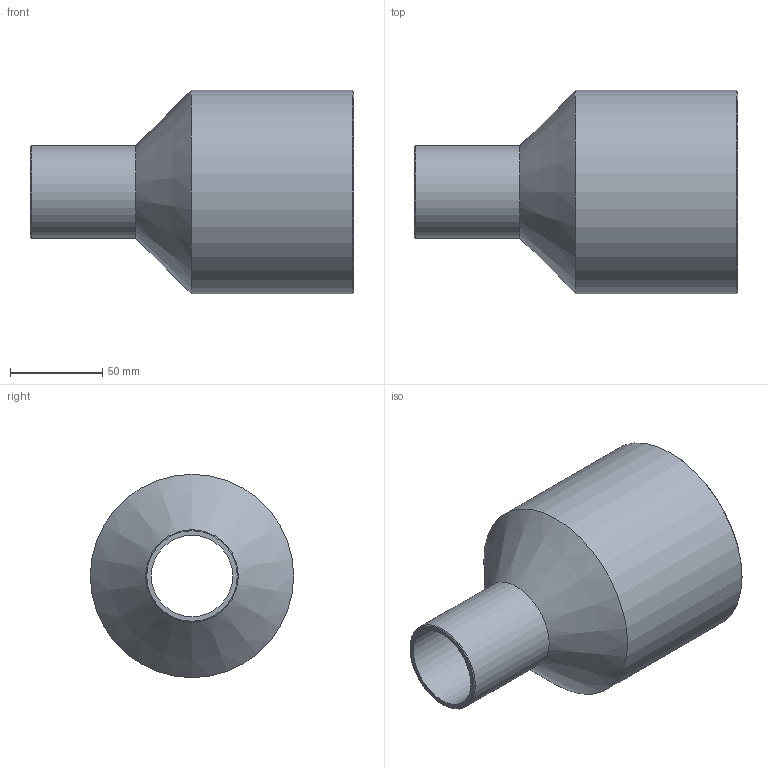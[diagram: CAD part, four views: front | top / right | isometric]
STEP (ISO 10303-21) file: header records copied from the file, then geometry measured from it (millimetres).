
FILE_DESCRIPTION(/* description */ ('Unknown'),/* implementation_level */ '2;1');
FILE_NAME(/* name */ 'RP110050B',/* time_stamp */ '2021-09-17T11:27:47+02:00',/* author */ ('Unknown'),/* organization */ ('Unknown'),/* preprocessor_version */ 'ST-DEVELOPER v16.7',/* originating_system */ 'Solid Edge',/* authorisation */ 'Unknown');
FILE_SCHEMA (('AUTOMOTIVE_DESIGN {1 0 10303 214 3 1 1}'));
Length unit declared in the file: millimetre
Products named in the file (1): RP110050B
Bounding box: 175 x 110 x 110 mm (x, y, z)
Volume: 286325.9 mm3; surface area: 95043.6 mm2
Topology: 1 solids, 1 shells, 10 faces, 19 edges, 11 vertices
Faces by surface type: cylinder 4, cone 4, plane 2
Full cylindrical faces by diameter (mm): 44 x1, 50 x1, 96.8 x1, 110 x1
Entity records: 238 total; most frequent: DIRECTION 42, CARTESIAN_POINT 31, AXIS2_PLACEMENT_3D 21, ORIENTED_EDGE 20, EDGE_LOOP 20, FACE_BOUND 20, EDGE_CURVE 10, VERTEX_POINT 10
